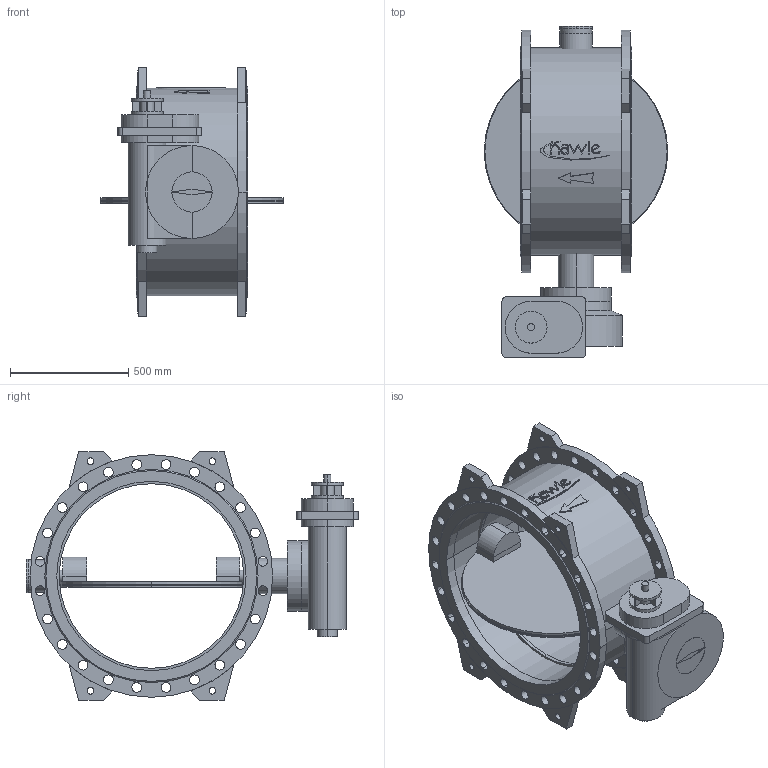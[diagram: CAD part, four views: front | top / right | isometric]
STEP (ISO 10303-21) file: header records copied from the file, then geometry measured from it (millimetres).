
FILE_DESCRIPTION(('STEP AP214'),'1');
FILE_NAME('S:/EK/USER/CAT6/3DHomepage_27-04-2012/neu_08-01-2013/9881K/9881K_PN16_DN800.STP','2013-03-11T15:42:09',(' '),(' '),'Spatial InterOp 3D',' ',' ');
FILE_SCHEMA(('automotive_design'));
Length unit declared in the file: millimetre
Products named in the file (52): 3D-Objekt
Bounding box: 776 x 1403 x 1050 mm (x, y, z)
Volume: 134850591.6 mm3; surface area: 8420982.6 mm2
Topology: 52 solids, 52 shells, 449 faces, 1026 edges, 684 vertices
Faces by surface type: cylinder 227, plane 214, cone 8
Entity records: 17868 total; most frequent: DIRECTION 2498, CARTESIAN_POINT 2211, ORIENTED_EDGE 2052, EDGE_CURVE 1026, AXIS2_PLACEMENT_3D 971, VERTEX_POINT 684, EDGE_LOOP 576, LINE 556
